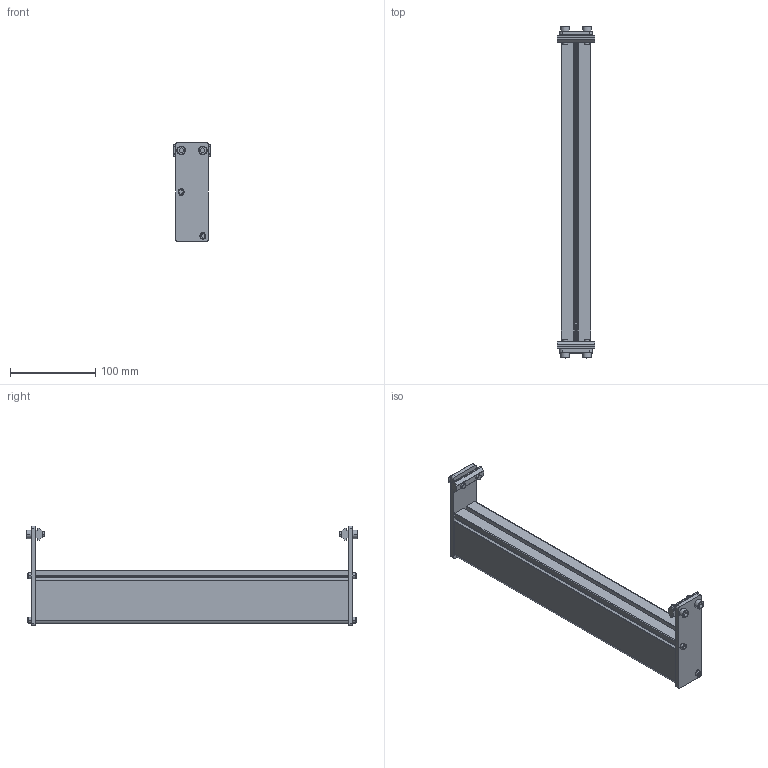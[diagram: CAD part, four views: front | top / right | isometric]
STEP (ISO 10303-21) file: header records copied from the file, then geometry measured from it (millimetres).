
FILE_DESCRIPTION((''),'2;1');
FILE_NAME('350974-14_ASM','2023-03-22T',('jenni.wallner'),(''),'PRO/ENGINEER BY PARAMETRIC TECHNOLOGY CORPORATION, 2012420','PRO/ENGINEER BY PARAMETRIC TECHNOLOGY CORPORATION, 2012420','');
FILE_SCHEMA(('CONFIG_CONTROL_DESIGN'));
Length unit declared in the file: inch
Products named in the file (6): 350979-01449; 350978; 200830M; 920616M; 920416M; 350974-14_ASM
Assembly tree (13 placements, depth 2):
  350974-14_ASM
    350979-01449
    350978  x2
    200830M  x2
    920616M  x4
    920416M  x4
Bounding box: 44.45 x 389.14 x 116.98 mm (x, y, z)
Volume: 341122.1 mm3; surface area: 217085.6 mm2
Topology: 13 solids, 17 shells, 342 faces, 868 edges, 568 vertices
Faces by surface type: plane 168, cylinder 142, cone 32
Entity records: 5992 total; most frequent: DIRECTION 1074, CARTESIAN_POINT 1021, ORIENTED_EDGE 972, EDGE_CURVE 490, AXIS2_PLACEMENT_3D 385, VERTEX_POINT 324, VECTOR 304, LINE 304
